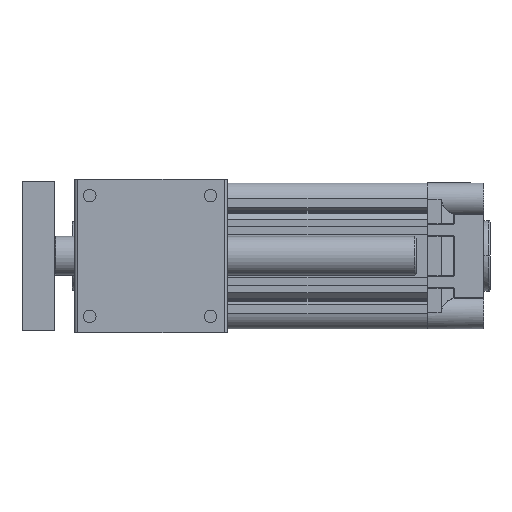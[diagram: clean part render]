
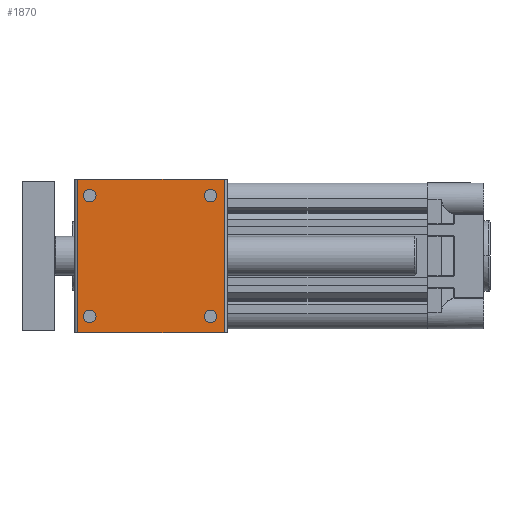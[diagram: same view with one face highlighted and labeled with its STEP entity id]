
A CAD part, left-side view. The second image highlights one B-rep face of the part: STEP entity #1870.
In plain terms, the highlighted planar face has unit normal (-1, 0, 0).
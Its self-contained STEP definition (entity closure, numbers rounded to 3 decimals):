
#966 = EDGE_LOOP ( 'NONE', ( #2507, #4330 ) ) ;
#1072 = CARTESIAN_POINT ( 'NONE',  ( 0., -7.708, 6.5 ) ) ;
#1090 = CIRCLE ( 'NONE', #33378, 4. ) ;
#1870 = ADVANCED_FACE ( 'NONE', ( #27434, #47821, #17211, #46615, #26229 ), #30096, .F. ) ;
#1969 = CARTESIAN_POINT ( 'NONE',  ( 0., -93.5, 0. ) ) ;
#2480 = DIRECTION ( 'NONE',  ( 1., 0., 0. ) ) ;
#2507 = ORIENTED_EDGE ( 'NONE', *, *, #38469, .T. ) ;
#2539 = CARTESIAN_POINT ( 'NONE',  ( 0., -84.708, 10.5 ) ) ;
#2556 = VERTEX_POINT ( 'NONE', #1969 ) ;
#3074 = CARTESIAN_POINT ( 'NONE',  ( 0., -7.708, 87.5 ) ) ;
#3189 = EDGE_CURVE ( 'NONE', #46925, #3334, #21917, .T. ) ;
#3287 = AXIS2_PLACEMENT_3D ( 'NONE', #14499, #41357, #18350 ) ;
#3334 = VERTEX_POINT ( 'NONE', #1072 ) ;
#3708 = CARTESIAN_POINT ( 'NONE',  ( 0., -7.708, 91.5 ) ) ;
#3751 = VERTEX_POINT ( 'NONE', #13060 ) ;
#4330 = ORIENTED_EDGE ( 'NONE', *, *, #36196, .T. ) ;
#4698 = VERTEX_POINT ( 'NONE', #7744 ) ;
#4766 = ORIENTED_EDGE ( 'NONE', *, *, #43219, .T. ) ;
#5084 = CARTESIAN_POINT ( 'NONE',  ( 0., 0., 0. ) ) ;
#5450 = EDGE_CURVE ( 'NONE', #29097, #3751, #42214, .T. ) ;
#5477 = VECTOR ( 'NONE', #43891, 1000. ) ;
#6369 = DIRECTION ( 'NONE',  ( 0., 0., -1. ) ) ;
#6907 = DIRECTION ( 'NONE',  ( 0., 0., -1. ) ) ;
#7062 = CARTESIAN_POINT ( 'NONE',  ( 0., 0., 98. ) ) ;
#7744 = CARTESIAN_POINT ( 'NONE',  ( 0., -84.708, 14.5 ) ) ;
#7926 = DIRECTION ( 'NONE',  ( 1., 0., 0. ) ) ;
#8533 = EDGE_CURVE ( 'NONE', #17763, #2556, #45080, .T. ) ;
#9197 = CARTESIAN_POINT ( 'NONE',  ( 0., -7.708, 10.5 ) ) ;
#9483 = ORIENTED_EDGE ( 'NONE', *, *, #3189, .T. ) ;
#9755 = AXIS2_PLACEMENT_3D ( 'NONE', #9197, #36082, #13074 ) ;
#9787 = EDGE_LOOP ( 'NONE', ( #46439, #31700, #16854, #13319 ) ) ;
#10176 = VERTEX_POINT ( 'NONE', #3708 ) ;
#10226 = LINE ( 'NONE', #20273, #29486 ) ;
#10488 = VECTOR ( 'NONE', #28105, 1000. ) ;
#10666 = CARTESIAN_POINT ( 'NONE',  ( 0., -84.708, 10.5 ) ) ;
#10914 = DIRECTION ( 'NONE',  ( 0., 1., 0. ) ) ;
#11786 = DIRECTION ( 'NONE',  ( 1., 0., 0. ) ) ;
#11939 = ORIENTED_EDGE ( 'NONE', *, *, #5450, .T. ) ;
#12971 = CARTESIAN_POINT ( 'NONE',  ( 0., -7.708, 83.5 ) ) ;
#13060 = CARTESIAN_POINT ( 'NONE',  ( 0., -84.708, 83.5 ) ) ;
#13074 = DIRECTION ( 'NONE',  ( 0., 0., 1. ) ) ;
#13319 = ORIENTED_EDGE ( 'NONE', *, *, #33681, .T. ) ;
#13581 = VERTEX_POINT ( 'NONE', #12971 ) ;
#14499 = CARTESIAN_POINT ( 'NONE',  ( 0., -84.708, 87.5 ) ) ;
#14565 = DIRECTION ( 'NONE',  ( 0., 0., -1. ) ) ;
#14586 = EDGE_LOOP ( 'NONE', ( #11939, #25212 ) ) ;
#15411 = AXIS2_PLACEMENT_3D ( 'NONE', #7062, #33942, #10914 ) ;
#15672 = CARTESIAN_POINT ( 'NONE',  ( 0., 0., 98. ) ) ;
#16854 = ORIENTED_EDGE ( 'NONE', *, *, #44619, .F. ) ;
#17114 = CIRCLE ( 'NONE', #36824, 4. ) ;
#17211 = FACE_OUTER_BOUND ( 'NONE', #9787, .T. ) ;
#17675 = AXIS2_PLACEMENT_3D ( 'NONE', #30974, #7926, #34807 ) ;
#17763 = VERTEX_POINT ( 'NONE', #46843 ) ;
#18350 = DIRECTION ( 'NONE',  ( 0., 0., 1. ) ) ;
#18583 = AXIS2_PLACEMENT_3D ( 'NONE', #34809, #11786, #38683 ) ;
#18831 = EDGE_CURVE ( 'NONE', #4698, #35312, #17114, .T. ) ;
#20273 = CARTESIAN_POINT ( 'NONE',  ( 0., 0., 98. ) ) ;
#20902 = CARTESIAN_POINT ( 'NONE',  ( 0., -93.5, 98. ) ) ;
#21917 = CIRCLE ( 'NONE', #17675, 4. ) ;
#22365 = CIRCLE ( 'NONE', #18583, 4. ) ;
#22514 = EDGE_CURVE ( 'NONE', #3751, #29097, #41250, .T. ) ;
#23901 = EDGE_CURVE ( 'NONE', #44140, #2556, #42376, .T. ) ;
#24177 = VERTEX_POINT ( 'NONE', #34272 ) ;
#24951 = EDGE_LOOP ( 'NONE', ( #48814, #35122 ) ) ;
#25212 = ORIENTED_EDGE ( 'NONE', *, *, #22514, .T. ) ;
#25476 = CARTESIAN_POINT ( 'NONE',  ( 0., -84.708, 87.5 ) ) ;
#26229 = FACE_BOUND ( 'NONE', #14586, .T. ) ;
#27434 = FACE_BOUND ( 'NONE', #24951, .T. ) ;
#28105 = DIRECTION ( 'NONE',  ( 0., -1., 0. ) ) ;
#29097 = VERTEX_POINT ( 'NONE', #46883 ) ;
#29336 = DIRECTION ( 'NONE',  ( 0., 0., 1. ) ) ;
#29391 = DIRECTION ( 'NONE',  ( 1., 0., 0. ) ) ;
#29486 = VECTOR ( 'NONE', #47118, 1000. ) ;
#29928 = DIRECTION ( 'NONE',  ( 1., 0., 0. ) ) ;
#30088 = CARTESIAN_POINT ( 'NONE',  ( 0., -7.708, 14.5 ) ) ;
#30096 = PLANE ( 'NONE',  #15411 ) ;
#30974 = CARTESIAN_POINT ( 'NONE',  ( 0., -7.708, 10.5 ) ) ;
#31700 = ORIENTED_EDGE ( 'NONE', *, *, #8533, .F. ) ;
#32452 = CIRCLE ( 'NONE', #42123, 4. ) ;
#33378 = AXIS2_PLACEMENT_3D ( 'NONE', #10666, #37561, #14565 ) ;
#33681 = EDGE_CURVE ( 'NONE', #24177, #44140, #40474, .T. ) ;
#33942 = DIRECTION ( 'NONE',  ( 1., 0., 0. ) ) ;
#34272 = CARTESIAN_POINT ( 'NONE',  ( 0., 0., 98. ) ) ;
#34803 = DIRECTION ( 'NONE',  ( 0., 0., -1. ) ) ;
#34807 = DIRECTION ( 'NONE',  ( 0., 0., 1. ) ) ;
#34809 = CARTESIAN_POINT ( 'NONE',  ( 0., -7.708, 87.5 ) ) ;
#35122 = ORIENTED_EDGE ( 'NONE', *, *, #48683, .T. ) ;
#35312 = VERTEX_POINT ( 'NONE', #43672 ) ;
#35661 = AXIS2_PLACEMENT_3D ( 'NONE', #25476, #2480, #29336 ) ;
#36082 = DIRECTION ( 'NONE',  ( 1., 0., 0. ) ) ;
#36196 = EDGE_CURVE ( 'NONE', #13581, #10176, #22365, .T. ) ;
#36824 = AXIS2_PLACEMENT_3D ( 'NONE', #2539, #29391, #6369 ) ;
#37561 = DIRECTION ( 'NONE',  ( 1., 0., 0. ) ) ;
#38469 = EDGE_CURVE ( 'NONE', #10176, #13581, #32452, .T. ) ;
#38683 = DIRECTION ( 'NONE',  ( 0., 0., -1. ) ) ;
#39263 = VECTOR ( 'NONE', #34803, 1000. ) ;
#39499 = CARTESIAN_POINT ( 'NONE',  ( 0., 0., 0. ) ) ;
#40300 = EDGE_LOOP ( 'NONE', ( #9483, #4766 ) ) ;
#40474 = LINE ( 'NONE', #15672, #39263 ) ;
#41250 = CIRCLE ( 'NONE', #35661, 4. ) ;
#41357 = DIRECTION ( 'NONE',  ( 1., 0., 0. ) ) ;
#42123 = AXIS2_PLACEMENT_3D ( 'NONE', #3074, #29928, #6907 ) ;
#42214 = CIRCLE ( 'NONE', #3287, 4. ) ;
#42376 = LINE ( 'NONE', #39499, #10488 ) ;
#43219 = EDGE_CURVE ( 'NONE', #3334, #46925, #45167, .T. ) ;
#43672 = CARTESIAN_POINT ( 'NONE',  ( 0., -84.708, 6.5 ) ) ;
#43891 = DIRECTION ( 'NONE',  ( 0., 0., -1. ) ) ;
#44140 = VERTEX_POINT ( 'NONE', #5084 ) ;
#44619 = EDGE_CURVE ( 'NONE', #24177, #17763, #10226, .T. ) ;
#45080 = LINE ( 'NONE', #20902, #5477 ) ;
#45167 = CIRCLE ( 'NONE', #9755, 4. ) ;
#46439 = ORIENTED_EDGE ( 'NONE', *, *, #23901, .T. ) ;
#46615 = FACE_BOUND ( 'NONE', #40300, .T. ) ;
#46843 = CARTESIAN_POINT ( 'NONE',  ( 0., -93.5, 98. ) ) ;
#46883 = CARTESIAN_POINT ( 'NONE',  ( 0., -84.708, 91.5 ) ) ;
#46925 = VERTEX_POINT ( 'NONE', #30088 ) ;
#47118 = DIRECTION ( 'NONE',  ( 0., -1., 0. ) ) ;
#47821 = FACE_BOUND ( 'NONE', #966, .T. ) ;
#48683 = EDGE_CURVE ( 'NONE', #35312, #4698, #1090, .T. ) ;
#48814 = ORIENTED_EDGE ( 'NONE', *, *, #18831, .T. ) ;
